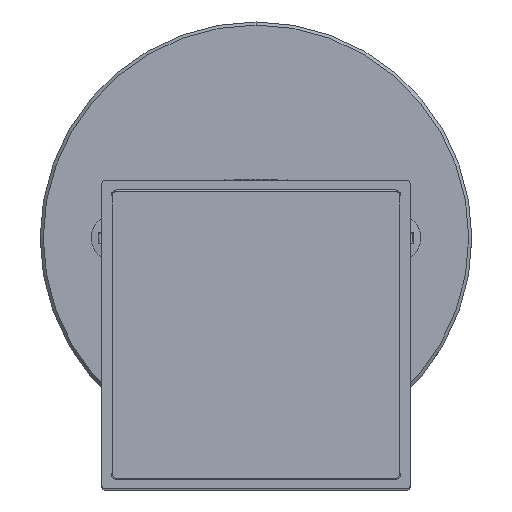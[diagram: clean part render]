
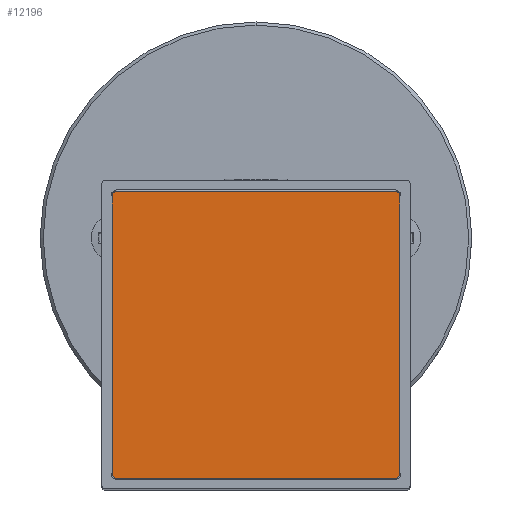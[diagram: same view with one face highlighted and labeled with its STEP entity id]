
A CAD part, top view. The second image highlights one B-rep face of the part: STEP entity #12196.
In plain terms, the highlighted planar face has unit normal (0, 0, 1).
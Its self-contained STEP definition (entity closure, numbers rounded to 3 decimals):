
#12045=CARTESIAN_POINT('',(22.5,-22.5,72.991));
#12046=DIRECTION('',(0.,0.,1.));
#12047=DIRECTION('',(0.,-1.,0.));
#12048=AXIS2_PLACEMENT_3D('',#12045,#12046,#12047);
#12050=DIRECTION('',(1.,0.,0.));
#12051=VECTOR('',#12050,45.);
#12052=CARTESIAN_POINT('',(-22.5,-23.3,72.991));
#12053=LINE('',#12052,#12051);
#12054=CARTESIAN_POINT('',(-22.5,-22.5,72.991));
#12055=DIRECTION('',(0.,0.,1.));
#12056=DIRECTION('',(-1.,0.,0.));
#12057=AXIS2_PLACEMENT_3D('',#12054,#12055,#12056);
#12059=DIRECTION('',(0.,1.,0.));
#12060=VECTOR('',#12059,45.);
#12061=CARTESIAN_POINT('',(-23.3,-22.5,72.991));
#12062=LINE('',#12061,#12060);
#12063=CARTESIAN_POINT('',(-22.5,22.5,72.991));
#12064=DIRECTION('',(0.,0.,1.));
#12065=DIRECTION('',(0.,1.,0.));
#12066=AXIS2_PLACEMENT_3D('',#12063,#12064,#12065);
#12068=DIRECTION('',(-1.,0.,0.));
#12069=VECTOR('',#12068,45.);
#12070=CARTESIAN_POINT('',(22.5,23.3,72.991));
#12071=LINE('',#12070,#12069);
#12072=CARTESIAN_POINT('',(22.5,22.5,72.991));
#12073=DIRECTION('',(0.,0.,1.));
#12074=DIRECTION('',(1.,0.,0.));
#12075=AXIS2_PLACEMENT_3D('',#12072,#12073,#12074);
#12077=DIRECTION('',(0.,-1.,0.));
#12078=VECTOR('',#12077,45.);
#12079=CARTESIAN_POINT('',(23.3,22.5,72.991));
#12080=LINE('',#12079,#12078);
#12141=CARTESIAN_POINT('',(22.5,-23.3,72.991));
#12142=CARTESIAN_POINT('',(23.3,-22.5,72.991));
#12143=VERTEX_POINT('',#12141);
#12144=VERTEX_POINT('',#12142);
#12149=CARTESIAN_POINT('',(23.3,22.5,72.991));
#12150=VERTEX_POINT('',#12149);
#12151=CARTESIAN_POINT('',(22.5,23.3,72.991));
#12152=VERTEX_POINT('',#12151);
#12157=CARTESIAN_POINT('',(-22.5,23.3,72.991));
#12158=VERTEX_POINT('',#12157);
#12161=CARTESIAN_POINT('',(-23.3,22.5,72.991));
#12162=VERTEX_POINT('',#12161);
#12165=CARTESIAN_POINT('',(-23.3,-22.5,72.991));
#12166=VERTEX_POINT('',#12165);
#12167=CARTESIAN_POINT('',(-22.5,-23.3,72.991));
#12168=VERTEX_POINT('',#12167);
#12173=CARTESIAN_POINT('',(0.,0.,72.991));
#12174=DIRECTION('',(0.,0.,1.));
#12175=DIRECTION('',(1.,0.,0.));
#12176=AXIS2_PLACEMENT_3D('',#12173,#12174,#12175);
#12177=PLANE('',#12176);
#12179=ORIENTED_EDGE('',*,*,#12178,.F.);
#12181=ORIENTED_EDGE('',*,*,#12180,.F.);
#12183=ORIENTED_EDGE('',*,*,#12182,.F.);
#12185=ORIENTED_EDGE('',*,*,#12184,.T.);
#12187=ORIENTED_EDGE('',*,*,#12186,.F.);
#12189=ORIENTED_EDGE('',*,*,#12188,.F.);
#12191=ORIENTED_EDGE('',*,*,#12190,.F.);
#12193=ORIENTED_EDGE('',*,*,#12192,.T.);
#12194=EDGE_LOOP('',(#12179,#12181,#12183,#12185,#12187,#12189,#12191,#12193));
#12195=FACE_OUTER_BOUND('',#12194,.F.);
#12196=ADVANCED_FACE('',(#12195),#12177,.T.);
#12049=CIRCLE('',#12048,0.8);
#12058=CIRCLE('',#12057,0.8);
#12067=CIRCLE('',#12066,0.8);
#12076=CIRCLE('',#12075,0.8);
#12178=EDGE_CURVE('',#12143,#12144,#12049,.T.);
#12180=EDGE_CURVE('',#12168,#12143,#12053,.T.);
#12182=EDGE_CURVE('',#12166,#12168,#12058,.T.);
#12184=EDGE_CURVE('',#12166,#12162,#12062,.T.);
#12186=EDGE_CURVE('',#12158,#12162,#12067,.T.);
#12188=EDGE_CURVE('',#12152,#12158,#12071,.T.);
#12190=EDGE_CURVE('',#12150,#12152,#12076,.T.);
#12192=EDGE_CURVE('',#12150,#12144,#12080,.T.);
